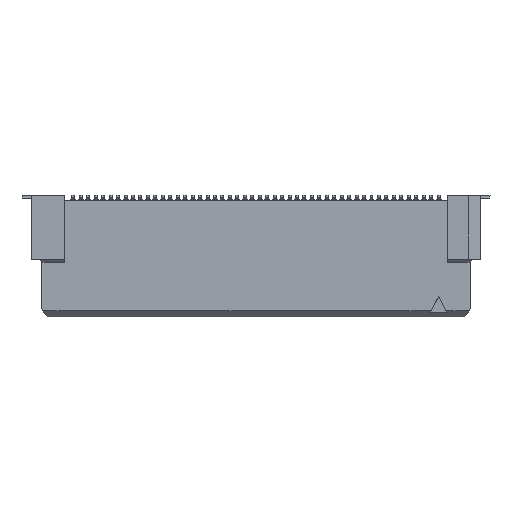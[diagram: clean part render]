
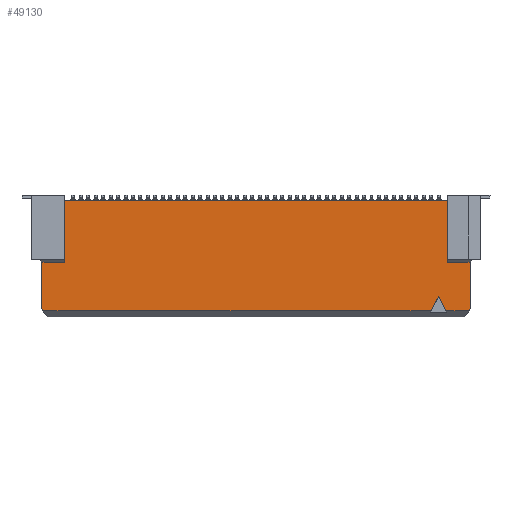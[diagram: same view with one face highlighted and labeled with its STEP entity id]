
A CAD part, front view. The second image highlights one B-rep face of the part: STEP entity #49130.
In plain terms, the highlighted planar face has unit normal (0, -1, 0).
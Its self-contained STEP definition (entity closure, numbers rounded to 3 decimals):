
#4080=CARTESIAN_POINT('',(23.522,1.44,
10.32));
#4090=VERTEX_POINT('',#4080);
#4880=CARTESIAN_POINT('',(23.522,1.44,
6.19));
#4890=VERTEX_POINT('',#4880);
#4920=CARTESIAN_POINT('',(23.522,1.44,
8.755));
#4930=DIRECTION('',(0.,0.,
1.));
#4940=VECTOR('',#4930,1.);
#4950=LINE('',#4920,#4940);
#4960=EDGE_CURVE('',#4890,#4090,#4950,.T.);
#8440=CARTESIAN_POINT('',(25.022,1.44,
6.19));
#8450=VERTEX_POINT('',#8440);
#8480=CARTESIAN_POINT('',(24.372,1.44,
6.19));
#8490=DIRECTION('',(-1.,0.,0.));
#8500=VECTOR('',#8490,1.);
#8510=LINE('',#8480,#8500);
#8520=EDGE_CURVE('',#8450,#4890,#8510,.T.);
#17550=CARTESIAN_POINT('',(25.022,1.44,
3.06));
#17560=VERTEX_POINT('',#17550);
#17590=CARTESIAN_POINT('',(25.022,1.44,
10.39));
#17600=DIRECTION('',(0.,0.,
1.));
#17610=VECTOR('',#17600,1.);
#17620=LINE('',#17590,#17610);
#17630=EDGE_CURVE('',#17560,#8450,#17620,.T.);
#24420=CARTESIAN_POINT('',(24.974,1.44,
2.91));
#24430=VERTEX_POINT('',#24420);
#24460=CARTESIAN_POINT('',(27.371,1.44,
10.39));
#24470=DIRECTION('',(-0.305,0.,
-0.952));
#24480=VECTOR('',#24470,1.);
#24490=LINE('',#24460,#24480);
#24500=EDGE_CURVE('',#17560,#24430,#24490,.T.);
#26820=CARTESIAN_POINT('',(22.912,1.44,
3.91));
#26830=VERTEX_POINT('',#26820);
#26860=CARTESIAN_POINT('',(20.49,1.44,
8.755));
#26870=DIRECTION('',(-0.447,0.,
0.894));
#26880=VECTOR('',#26870,1.);
#26890=LINE('',#26860,#26880);
#26900=CARTESIAN_POINT('',(23.412,1.44,
2.91));
#26910=VERTEX_POINT('',#26900);
#26920=EDGE_CURVE('',#26910,#26830,#26890,.T.);
#47550=CARTESIAN_POINT('',(22.412,1.44,
2.91));
#47560=VERTEX_POINT('',#47550);
#47590=CARTESIAN_POINT('',(25.335,1.44,
8.755));
#47600=DIRECTION('',(-0.447,0.,
-0.894));
#47610=VECTOR('',#47600,1.);
#47620=LINE('',#47590,#47610);
#47630=EDGE_CURVE('',#26830,#47560,#47620,.T.);
#47680=CARTESIAN_POINT('',(2.172,1.44,
2.91));
#47690=DIRECTION('',(0.,1.,
0.));
#47700=DIRECTION('',(0.,0.,
1.));
#47710=AXIS2_PLACEMENT_3D('',#47680,#47690,#47700);
#47720=PLANE('',#47710);
#47730=CARTESIAN_POINT('',(1.152,1.44,
2.91));
#47740=DIRECTION('',(1.,0.,0.));
#47750=VECTOR('',#47740,1.);
#47760=LINE('',#47730,#47750);
#47770=CARTESIAN_POINT('',(-2.348,1.44,
2.91));
#47780=VERTEX_POINT('',#47770);
#47790=CARTESIAN_POINT('',(3.662,1.44,
2.91));
#47800=VERTEX_POINT('',#47790);
#47810=EDGE_CURVE('',#47780,#47800,#47760,.T.);
#47820=ORIENTED_EDGE('',*,*,#47810,.T.);
#47830=CARTESIAN_POINT('',(4.458,1.44,
2.91));
#47840=DIRECTION('',(1.,0.,0.));
#47850=VECTOR('',#47840,1.);
#47860=LINE('',#47830,#47850);
#47870=CARTESIAN_POINT('',(-3.649,1.44,
2.91));
#47880=VERTEX_POINT('',#47870);
#47890=EDGE_CURVE('',#47880,#47780,#47860,.T.);
#47900=ORIENTED_EDGE('',*,*,#47890,.T.);
#47910=CARTESIAN_POINT('',(-6.046,1.44,
10.39));
#47920=DIRECTION('',(0.305,0.,
-0.952));
#47930=VECTOR('',#47920,1.);
#47940=LINE('',#47910,#47930);
#47950=CARTESIAN_POINT('',(-3.698,1.44,
3.06));
#47960=VERTEX_POINT('',#47950);
#47970=EDGE_CURVE('',#47960,#47880,#47940,.T.);
#47980=ORIENTED_EDGE('',*,*,#47970,.T.);
#47990=CARTESIAN_POINT('',(-3.698,1.44,
10.39));
#48000=DIRECTION('',(0.,0.,
1.));
#48010=VECTOR('',#48000,1.);
#48020=LINE('',#47990,#48010);
#48030=CARTESIAN_POINT('',(-3.698,1.44,
6.19));
#48040=VERTEX_POINT('',#48030);
#48050=EDGE_CURVE('',#47960,#48040,#48020,.T.);
#48060=ORIENTED_EDGE('',*,*,#48050,.F.);
#48070=CARTESIAN_POINT('',(-3.048,1.44,
6.19));
#48080=DIRECTION('',(1.,0.,0.));
#48090=VECTOR('',#48080,1.);
#48100=LINE('',#48070,#48090);
#48110=CARTESIAN_POINT('',(-2.198,1.44,
6.19));
#48120=VERTEX_POINT('',#48110);
#48130=EDGE_CURVE('',#48040,#48120,#48100,.T.);
#48140=ORIENTED_EDGE('',*,*,#48130,.F.);
#48150=CARTESIAN_POINT('',(-2.198,1.44,
8.755));
#48160=DIRECTION('',(0.,0.,
1.));
#48170=VECTOR('',#48160,1.);
#48180=LINE('',#48150,#48170);
#48190=CARTESIAN_POINT('',(-2.198,1.44,
10.32));
#48200=VERTEX_POINT('',#48190);
#48210=EDGE_CURVE('',#48120,#48200,#48180,.T.);
#48220=ORIENTED_EDGE('',*,*,#48210,.F.);
#48230=CARTESIAN_POINT('',(-2.348,1.44,
10.32));
#48240=DIRECTION('',(1.,0.,0.));
#48250=VECTOR('',#48240,1.);
#48260=LINE('',#48230,#48250);
#48270=CARTESIAN_POINT('',(-1.838,1.44,
10.32));
#48280=VERTEX_POINT('',#48270);
#48290=EDGE_CURVE('',#48200,#48280,#48260,.T.);
#48300=ORIENTED_EDGE('',*,*,#48290,.F.);
#48310=CARTESIAN_POINT('',(-20.088,1.44,
10.32));
#48320=DIRECTION('',(1.,0.,0.));
#48330=VECTOR('',#48320,1.);
#48340=LINE('',#48310,#48330);
#48350=CARTESIAN_POINT('',(1.662,1.44,
10.32));
#48360=VERTEX_POINT('',#48350);
#48370=EDGE_CURVE('',#48280,#48360,#48340,.T.);
#48380=ORIENTED_EDGE('',*,*,#48370,.F.);
#48390=CARTESIAN_POINT('',(-14.,1.44,
10.32));
#48400=DIRECTION('',(1.,0.,0.));
#48410=VECTOR('',#48400,1.);
#48420=LINE('',#48390,#48410);
#48430=CARTESIAN_POINT('',(3.662,1.44,
10.32));
#48440=VERTEX_POINT('',#48430);
#48450=EDGE_CURVE('',#48360,#48440,#48420,.T.);
#48460=ORIENTED_EDGE('',*,*,#48450,.F.);
#48470=CARTESIAN_POINT('',(-39.,1.44,
10.32));
#48480=DIRECTION('',(1.,0.,0.));
#48490=VECTOR('',#48480,1.);
#48500=LINE('',#48470,#48490);
#48510=CARTESIAN_POINT('',(13.162,1.44,
10.32));
#48520=VERTEX_POINT('',#48510);
#48530=EDGE_CURVE('',#48440,#48520,#48500,.T.);
#48540=ORIENTED_EDGE('',*,*,#48530,.F.);
#48550=CARTESIAN_POINT('',(-9.,1.44,
10.32));
#48560=DIRECTION('',(1.,0.,0.));
#48570=VECTOR('',#48560,1.);
#48580=LINE('',#48550,#48570);
#48590=CARTESIAN_POINT('',(19.162,1.44,
10.32));
#48600=VERTEX_POINT('',#48590);
#48610=EDGE_CURVE('',#48520,#48600,#48580,.T.);
#48620=ORIENTED_EDGE('',*,*,#48610,.F.);
#48630=CARTESIAN_POINT('',(-2.588,1.44,
10.32));
#48640=DIRECTION('',(1.,0.,0.));
#48650=VECTOR('',#48640,1.);
#48660=LINE('',#48630,#48650);
#48670=CARTESIAN_POINT('',(23.162,1.44,
10.32));
#48680=VERTEX_POINT('',#48670);
#48690=EDGE_CURVE('',#48600,#48680,#48660,.T.);
#48700=ORIENTED_EDGE('',*,*,#48690,.F.);
#48710=CARTESIAN_POINT('',(23.672,1.44,
10.32));
#48720=DIRECTION('',(-1.,0.,0.));
#48730=VECTOR('',#48720,1.);
#48740=LINE('',#48710,#48730);
#48750=EDGE_CURVE('',#4090,#48680,#48740,.T.);
#48760=ORIENTED_EDGE('',*,*,#48750,.T.);
#48770=ORIENTED_EDGE('',*,*,#4960,.T.);
#48780=ORIENTED_EDGE('',*,*,#8520,.T.);
#48790=ORIENTED_EDGE('',*,*,#17630,.T.);
#48800=ORIENTED_EDGE('',*,*,#24500,.F.);
#48810=CARTESIAN_POINT('',(16.867,1.44,
2.91));
#48820=DIRECTION('',(-1.,0.,0.));
#48830=VECTOR('',#48820,1.);
#48840=LINE('',#48810,#48830);
#48850=CARTESIAN_POINT('',(23.672,1.44,
2.91));
#48860=VERTEX_POINT('',#48850);
#48870=EDGE_CURVE('',#24430,#48860,#48840,.T.);
#48880=ORIENTED_EDGE('',*,*,#48870,.F.);
#48890=CARTESIAN_POINT('',(-2.348,1.44,
2.91));
#48900=DIRECTION('',(1.,0.,0.));
#48910=VECTOR('',#48900,1.);
#48920=LINE('',#48890,#48910);
#48930=EDGE_CURVE('',#26910,#48860,#48920,.T.);
#48940=ORIENTED_EDGE('',*,*,#48930,.T.);
#48950=ORIENTED_EDGE('',*,*,#26920,.F.);
#48960=ORIENTED_EDGE('',*,*,#47630,.F.);
#48970=CARTESIAN_POINT('',(6.152,1.44,
2.91));
#48980=DIRECTION('',(1.,0.,0.));
#48990=VECTOR('',#48980,1.);
#49000=LINE('',#48970,#48990);
#49010=CARTESIAN_POINT('',(13.162,1.44,
2.91));
#49020=VERTEX_POINT('',#49010);
#49030=EDGE_CURVE('',#49020,#47560,#49000,.T.);
#49040=ORIENTED_EDGE('',*,*,#49030,.T.);
#49050=CARTESIAN_POINT('',(-23.848,1.44,
2.91));
#49060=DIRECTION('',(1.,0.,0.));
#49070=VECTOR('',#49060,1.);
#49080=LINE('',#49050,#49070);
#49090=EDGE_CURVE('',#47800,#49020,#49080,.T.);
#49100=ORIENTED_EDGE('',*,*,#49090,.T.);
#49110=EDGE_LOOP('',(#49100,#49040,#48960,#48950,#48940,#48880,#48800,
#48790,#48780,#48770,#48760,#48700,#48620,#48540,#48460,#48380,#48300,
#48220,#48140,#48060,#47980,#47900,#47820));
#49120=FACE_OUTER_BOUND('',#49110,.T.);
#49130=ADVANCED_FACE('',(#49120),#47720,.F.);
